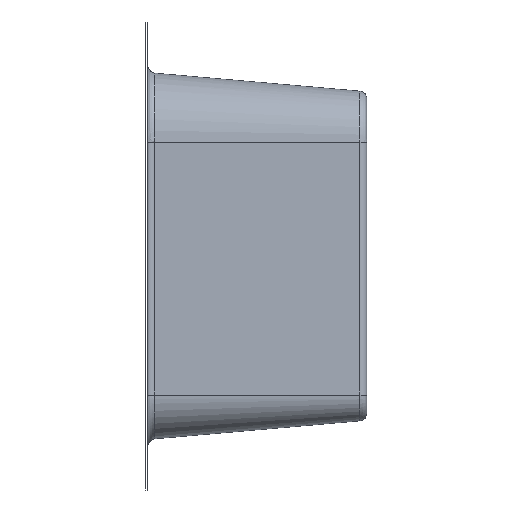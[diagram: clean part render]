
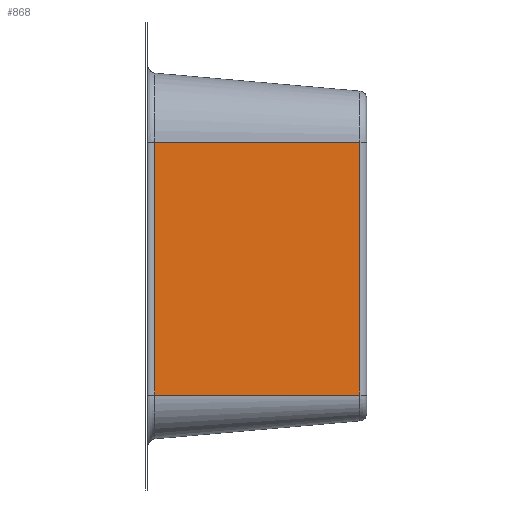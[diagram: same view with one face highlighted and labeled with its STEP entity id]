
A CAD part, left-side view. The second image highlights one B-rep face of the part: STEP entity #868.
In plain terms, the highlighted free-form (B-spline) face has degree [5, 1] with [6, 2] control points.
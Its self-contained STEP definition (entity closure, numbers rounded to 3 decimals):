
#273=CARTESIAN_POINT('Vertex',(-0.24,2.739,110.)) ;
#276=CARTESIAN_POINT('Line Origine',(-0.24,2.739,65.556)) ;
#280=CARTESIAN_POINT('Vertex',(-0.24,2.739,10.)) ;
#822=CARTESIAN_POINT('Control Point',(-7.583,86.669,10.)) ;
#823=CARTESIAN_POINT('Control Point',(0.,0.,10.)) ;
#824=CARTESIAN_POINT('Control Point',(-7.583,86.669,30.)) ;
#825=CARTESIAN_POINT('Control Point',(0.,0.,30.)) ;
#826=CARTESIAN_POINT('Control Point',(-7.583,86.669,50.)) ;
#827=CARTESIAN_POINT('Control Point',(0.,0.,50.)) ;
#828=CARTESIAN_POINT('Control Point',(-7.583,86.669,70.)) ;
#829=CARTESIAN_POINT('Control Point',(0.,0.,70.)) ;
#830=CARTESIAN_POINT('Control Point',(-7.583,86.669,90.)) ;
#831=CARTESIAN_POINT('Control Point',(0.,0.,90.)) ;
#832=CARTESIAN_POINT('Control Point',(-7.583,86.669,110.)) ;
#833=CARTESIAN_POINT('Control Point',(0.,0.,110.)) ;
#835=CARTESIAN_POINT('Control Point',(-7.343,83.93,110.)) ;
#836=CARTESIAN_POINT('Control Point',(-5.922,67.692,110.)) ;
#837=CARTESIAN_POINT('Control Point',(-4.502,51.454,110.)) ;
#838=CARTESIAN_POINT('Control Point',(-3.081,35.215,110.)) ;
#839=CARTESIAN_POINT('Control Point',(-1.66,18.977,110.)) ;
#840=CARTESIAN_POINT('Control Point',(-0.24,2.739,110.)) ;
#841=CARTESIAN_POINT('Vertex',(-7.343,83.93,110.)) ;
#845=CARTESIAN_POINT('Control Point',(-7.343,83.93,10.)) ;
#846=CARTESIAN_POINT('Control Point',(-7.343,83.93,30.)) ;
#847=CARTESIAN_POINT('Control Point',(-7.343,83.93,50.)) ;
#848=CARTESIAN_POINT('Control Point',(-7.343,83.93,70.)) ;
#849=CARTESIAN_POINT('Control Point',(-7.343,83.93,90.)) ;
#850=CARTESIAN_POINT('Control Point',(-7.343,83.93,110.)) ;
#851=CARTESIAN_POINT('Vertex',(-7.343,83.93,10.)) ;
#855=CARTESIAN_POINT('Control Point',(-7.343,83.93,10.)) ;
#856=CARTESIAN_POINT('Control Point',(-5.922,67.692,10.)) ;
#857=CARTESIAN_POINT('Control Point',(-4.502,51.454,10.)) ;
#858=CARTESIAN_POINT('Control Point',(-3.081,35.215,10.)) ;
#859=CARTESIAN_POINT('Control Point',(-1.66,18.977,10.)) ;
#860=CARTESIAN_POINT('Control Point',(-0.24,2.739,10.)) ;
#277=DIRECTION('Vector Direction',(0.,0.,1.)) ;
#863=ORIENTED_EDGE('',*,*,#282,.F.) ;
#864=ORIENTED_EDGE('',*,*,#843,.F.) ;
#865=ORIENTED_EDGE('',*,*,#853,.F.) ;
#866=ORIENTED_EDGE('',*,*,#861,.T.) ;
#278=VECTOR('Line Direction',#277,1.) ;
#868=ADVANCED_FACE('base',(#867),#821,.F.) ;
#834=B_SPLINE_CURVE_WITH_KNOTS('',5,(#835,#836,#837,#838,#839,#840),.UNSPECIFIED.,.F.,.U.,(6,6),(2.749,84.251),.UNSPECIFIED.) ;
#844=B_SPLINE_CURVE_WITH_KNOTS('',5,(#845,#846,#847,#848,#849,#850),.UNSPECIFIED.,.F.,.U.,(6,6),(0.,100.),.UNSPECIFIED.) ;
#854=B_SPLINE_CURVE_WITH_KNOTS('',5,(#855,#856,#857,#858,#859,#860),.UNSPECIFIED.,.F.,.U.,(6,6),(2.749,84.251),.UNSPECIFIED.) ;
#821=B_SPLINE_SURFACE_WITH_KNOTS('',5,1,((#822,#823),(#824,#825),(#826,#827),(#828,#829),(#830,#831),(#832,#833)),.UNSPECIFIED.,.F.,.F.,.U.,(6,6),(2,2),(0.,100.),(0.,87.),.UNSPECIFIED.) ;
#282=EDGE_CURVE('',#274,#281,#279,.F.) ;
#843=EDGE_CURVE('',#842,#274,#834,.T.) ;
#853=EDGE_CURVE('',#852,#842,#844,.T.) ;
#861=EDGE_CURVE('',#852,#281,#854,.T.) ;
#862=EDGE_LOOP('',(#863,#864,#865,#866)) ;
#867=FACE_OUTER_BOUND('',#862,.T.) ;
#279=LINE('Line',#276,#278) ;
#274=VERTEX_POINT('',#273) ;
#281=VERTEX_POINT('',#280) ;
#842=VERTEX_POINT('',#841) ;
#852=VERTEX_POINT('',#851) ;
